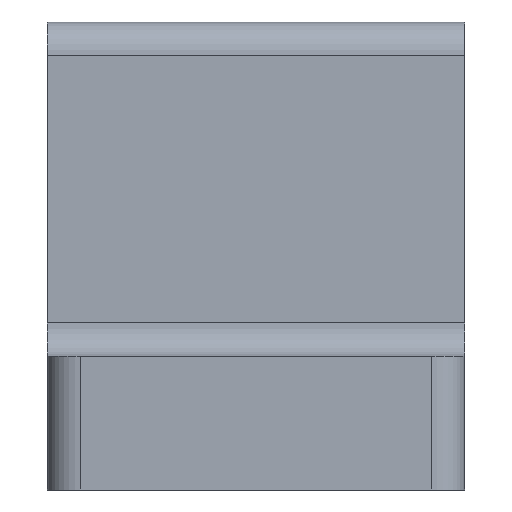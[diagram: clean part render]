
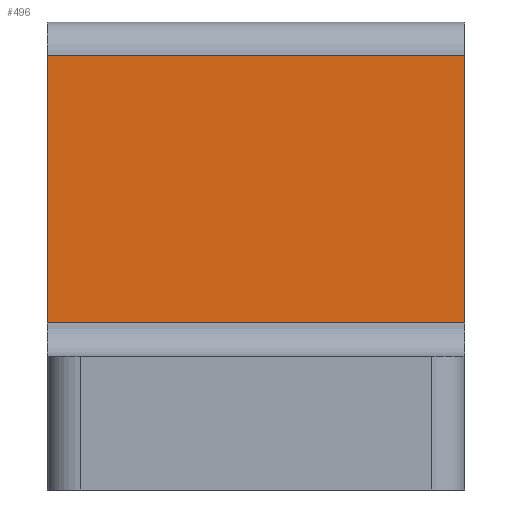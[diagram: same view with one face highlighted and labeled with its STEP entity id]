
A CAD part, left-side view. The second image highlights one B-rep face of the part: STEP entity #496.
In plain terms, the highlighted planar face has unit normal (-1, 0, 0).
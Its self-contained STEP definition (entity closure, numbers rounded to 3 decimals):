
#23=PLANE('',#556);
#44=FACE_OUTER_BOUND('',#71,.T.);
#71=EDGE_LOOP('',(#404,#405,#406,#407));
#100=LINE('',#769,#148);
#112=LINE('',#809,#160);
#123=LINE('',#835,#171);
#125=LINE('',#838,#173);
#148=VECTOR('',#614,10.);
#160=VECTOR('',#648,10.);
#171=VECTOR('',#673,10.);
#173=VECTOR('',#677,10.);
#226=VERTEX_POINT('',#766);
#227=VERTEX_POINT('',#768);
#243=VERTEX_POINT('',#806);
#244=VERTEX_POINT('',#808);
#277=EDGE_CURVE('',#226,#227,#100,.T.);
#297=EDGE_CURVE('',#244,#243,#112,.T.);
#311=EDGE_CURVE('',#244,#226,#123,.T.);
#313=EDGE_CURVE('',#227,#243,#125,.T.);
#404=ORIENTED_EDGE('',*,*,#311,.F.);
#405=ORIENTED_EDGE('',*,*,#297,.T.);
#406=ORIENTED_EDGE('',*,*,#313,.F.);
#407=ORIENTED_EDGE('',*,*,#277,.F.);
#496=ADVANCED_FACE('',(#44),#23,.T.);
#556=AXIS2_PLACEMENT_3D('',#837,#675,#676);
#614=DIRECTION('',(0.,0.,1.));
#648=DIRECTION('',(0.,0.,1.));
#673=DIRECTION('',(0.,1.,0.));
#675=DIRECTION('center_axis',(-1.,0.,0.));
#676=DIRECTION('ref_axis',(0.,-1.,0.));
#677=DIRECTION('',(0.,-1.,0.));
#766=CARTESIAN_POINT('',(-10.,6.25,5.));
#768=CARTESIAN_POINT('',(-10.,6.25,13.));
#769=CARTESIAN_POINT('',(-10.,6.25,4.));
#806=CARTESIAN_POINT('',(-10.,-6.25,13.));
#808=CARTESIAN_POINT('',(-10.,-6.25,5.));
#809=CARTESIAN_POINT('',(-10.,-6.25,4.));
#835=CARTESIAN_POINT('',(-10.,3.125,5.));
#837=CARTESIAN_POINT('Origin',(-10.,6.25,4.));
#838=CARTESIAN_POINT('',(-10.,3.125,13.));
